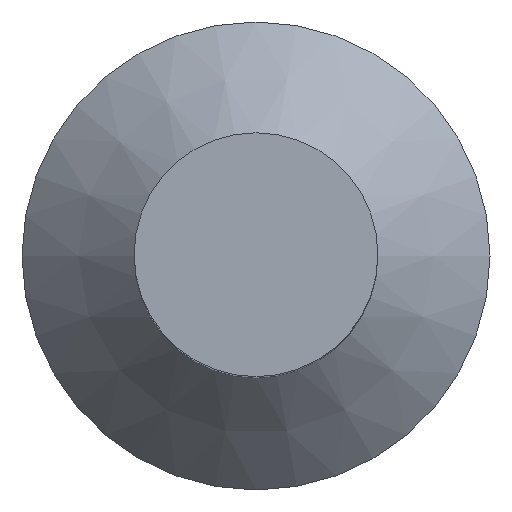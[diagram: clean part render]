
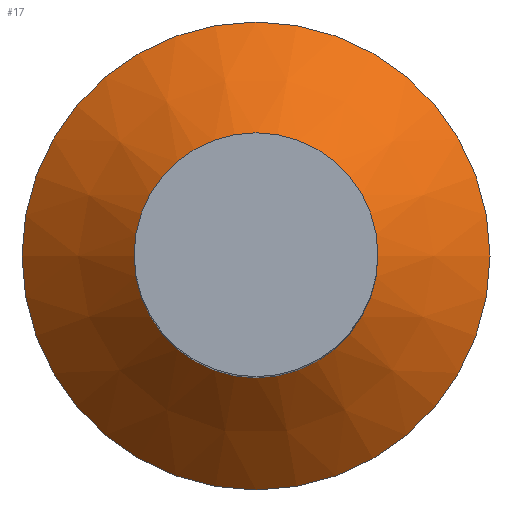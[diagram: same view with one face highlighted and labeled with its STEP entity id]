
A CAD part, top view. The second image highlights one B-rep face of the part: STEP entity #17.
In plain terms, the highlighted conical face has half-angle 45 degrees and reference radius 1.9 mm.
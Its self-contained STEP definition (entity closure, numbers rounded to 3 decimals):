
#17 = ADVANCED_FACE('',(#18),#31,.T.);
#18 = FACE_BOUND('',#19,.T.);
#19 = EDGE_LOOP('',(#20,#54,#77,#104));
#20 = ORIENTED_EDGE('',*,*,#21,.F.);
#21 = EDGE_CURVE('',#22,#22,#24,.T.);
#22 = VERTEX_POINT('',#23);
#23 = CARTESIAN_POINT('',(15.49,-1.,-8.69));
#24 = SURFACE_CURVE('',#25,(#30,#42),.PCURVE_S1.);
#25 = CIRCLE('',#26,0.99);
#26 = AXIS2_PLACEMENT_3D('',#27,#28,#29);
#27 = CARTESIAN_POINT('',(14.5,-1.,-8.69));
#28 = DIRECTION('',(0.,0.,1.));
#29 = DIRECTION('',(1.,0.,-0.));
#30 = PCURVE('',#31,#36);
#31 = CONICAL_SURFACE('',#32,1.9,0.785);
#32 = AXIS2_PLACEMENT_3D('',#33,#34,#35);
#33 = CARTESIAN_POINT('',(14.5,-1.,-9.6));
#34 = DIRECTION('',(-0.,-0.,-1.));
#35 = DIRECTION('',(1.,0.,-0.));
#36 = DEFINITIONAL_REPRESENTATION('',(#37),#41);
#37 = LINE('',#38,#39);
#38 = CARTESIAN_POINT('',(-0.,-0.91));
#39 = VECTOR('',#40,1.);
#40 = DIRECTION('',(-1.,-0.));
#41 = ( GEOMETRIC_REPRESENTATION_CONTEXT(2) 
PARAMETRIC_REPRESENTATION_CONTEXT() REPRESENTATION_CONTEXT('2D SPACE',''
  ) );
#42 = PCURVE('',#43,#48);
#43 = CYLINDRICAL_SURFACE('',#44,0.99);
#44 = AXIS2_PLACEMENT_3D('',#45,#46,#47);
#45 = CARTESIAN_POINT('',(14.5,-1.,-8.7));
#46 = DIRECTION('',(0.,0.,1.));
#47 = DIRECTION('',(1.,0.,-0.));
#48 = DEFINITIONAL_REPRESENTATION('',(#49),#53);
#49 = LINE('',#50,#51);
#50 = CARTESIAN_POINT('',(0.,0.01));
#51 = VECTOR('',#52,1.);
#52 = DIRECTION('',(1.,0.));
#53 = ( GEOMETRIC_REPRESENTATION_CONTEXT(2) 
PARAMETRIC_REPRESENTATION_CONTEXT() REPRESENTATION_CONTEXT('2D SPACE',''
  ) );
#54 = ORIENTED_EDGE('',*,*,#55,.F.);
#55 = EDGE_CURVE('',#56,#22,#58,.T.);
#56 = VERTEX_POINT('',#57);
#57 = CARTESIAN_POINT('',(16.4,-1.,-9.6));
#58 = SEAM_CURVE('',#59,(#63,#70),.PCURVE_S1.);
#59 = LINE('',#60,#61);
#60 = CARTESIAN_POINT('',(16.4,-1.,-9.6));
#61 = VECTOR('',#62,1.);
#62 = DIRECTION('',(-0.707,0.,0.707));
#63 = PCURVE('',#31,#64);
#64 = DEFINITIONAL_REPRESENTATION('',(#65),#69);
#65 = LINE('',#66,#67);
#66 = CARTESIAN_POINT('',(-6.283,0.));
#67 = VECTOR('',#68,1.);
#68 = DIRECTION('',(-0.,-1.));
#69 = ( GEOMETRIC_REPRESENTATION_CONTEXT(2) 
PARAMETRIC_REPRESENTATION_CONTEXT() REPRESENTATION_CONTEXT('2D SPACE',''
  ) );
#70 = PCURVE('',#31,#71);
#71 = DEFINITIONAL_REPRESENTATION('',(#72),#76);
#72 = LINE('',#73,#74);
#73 = CARTESIAN_POINT('',(0.,-0.));
#74 = VECTOR('',#75,1.);
#75 = DIRECTION('',(-0.,-1.));
#76 = ( GEOMETRIC_REPRESENTATION_CONTEXT(2) 
PARAMETRIC_REPRESENTATION_CONTEXT() REPRESENTATION_CONTEXT('2D SPACE',''
  ) );
#77 = ORIENTED_EDGE('',*,*,#78,.T.);
#78 = EDGE_CURVE('',#56,#56,#79,.T.);
#79 = SURFACE_CURVE('',#80,(#85,#92),.PCURVE_S1.);
#80 = CIRCLE('',#81,1.9);
#81 = AXIS2_PLACEMENT_3D('',#82,#83,#84);
#82 = CARTESIAN_POINT('',(14.5,-1.,-9.6));
#83 = DIRECTION('',(0.,0.,1.));
#84 = DIRECTION('',(1.,0.,-0.));
#85 = PCURVE('',#31,#86);
#86 = DEFINITIONAL_REPRESENTATION('',(#87),#91);
#87 = LINE('',#88,#89);
#88 = CARTESIAN_POINT('',(-0.,-0.));
#89 = VECTOR('',#90,1.);
#90 = DIRECTION('',(-1.,-0.));
#91 = ( GEOMETRIC_REPRESENTATION_CONTEXT(2) 
PARAMETRIC_REPRESENTATION_CONTEXT() REPRESENTATION_CONTEXT('2D SPACE',''
  ) );
#92 = PCURVE('',#93,#98);
#93 = PLANE('',#94);
#94 = AXIS2_PLACEMENT_3D('',#95,#96,#97);
#95 = CARTESIAN_POINT('',(14.5,-1.,-9.6));
#96 = DIRECTION('',(0.,0.,1.));
#97 = DIRECTION('',(1.,0.,-0.));
#98 = DEFINITIONAL_REPRESENTATION('',(#99),#103);
#99 = CIRCLE('',#100,1.9);
#100 = AXIS2_PLACEMENT_2D('',#101,#102);
#101 = CARTESIAN_POINT('',(0.,0.));
#102 = DIRECTION('',(1.,0.));
#103 = ( GEOMETRIC_REPRESENTATION_CONTEXT(2) 
PARAMETRIC_REPRESENTATION_CONTEXT() REPRESENTATION_CONTEXT('2D SPACE',''
  ) );
#104 = ORIENTED_EDGE('',*,*,#55,.T.);
